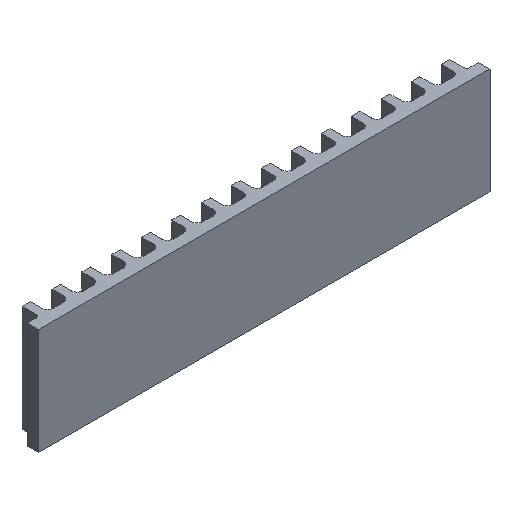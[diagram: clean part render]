
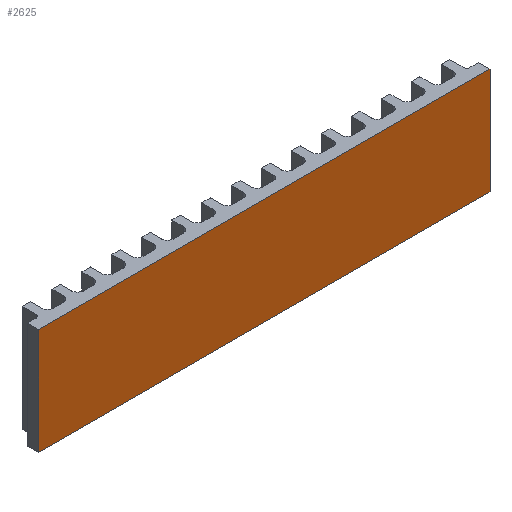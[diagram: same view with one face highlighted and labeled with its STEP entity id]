
A CAD part, isometric view. The second image highlights one B-rep face of the part: STEP entity #2625.
In plain terms, the highlighted planar face has unit normal (0, -1, 0).
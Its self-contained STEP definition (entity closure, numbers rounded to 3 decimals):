
#22 = ORIENTED_EDGE ( 'NONE', *, *, #2571, .F. ) ;
#45 = EDGE_CURVE ( 'NONE', #906, #3212, #549, .T. ) ;
#110 = ORIENTED_EDGE ( 'NONE', *, *, #126, .T. ) ;
#114 = VERTEX_POINT ( 'NONE', #1038 ) ;
#126 = EDGE_CURVE ( 'NONE', #114, #906, #1144, .T. ) ;
#549 = LINE ( 'NONE', #550, #551 ) ;
#550 = CARTESIAN_POINT ( 'NONE',  ( 0., 0., 0. ) ) ;
#551 = VECTOR ( 'NONE', #552, 1000. ) ;
#552 = DIRECTION ( 'NONE',  ( 1., 0., 0. ) ) ;
#698 = LINE ( 'NONE', #699, #700 ) ;
#699 = CARTESIAN_POINT ( 'NONE',  ( 159., 0., 37.5 ) ) ;
#700 = VECTOR ( 'NONE', #701, 1000. ) ;
#701 = DIRECTION ( 'NONE',  ( 0., 0., -1. ) ) ;
#848 = EDGE_CURVE ( 'NONE', #114, #2653, #1797, .T. ) ;
#901 = FACE_OUTER_BOUND ( 'NONE', #1705, .T. ) ;
#902 = PLANE ( 'NONE',  #903 ) ;
#903 = AXIS2_PLACEMENT_3D ( 'NONE', #904, #905, #911 ) ;
#904 = CARTESIAN_POINT ( 'NONE',  ( 0., 0., 37.5 ) ) ;
#905 = DIRECTION ( 'NONE',  ( 0., 1., 0. ) ) ;
#906 = VERTEX_POINT ( 'NONE', #1827 ) ;
#911 = DIRECTION ( 'NONE',  ( 0., 0., 1. ) ) ;
#951 = CARTESIAN_POINT ( 'NONE',  ( 159., 0., 37.5 ) ) ;
#1038 = CARTESIAN_POINT ( 'NONE',  ( 0., 0., 37.5 ) ) ;
#1144 = LINE ( 'NONE', #1145, #1146 ) ;
#1145 = CARTESIAN_POINT ( 'NONE',  ( 0., 0., 37.5 ) ) ;
#1146 = VECTOR ( 'NONE', #1147, 1000. ) ;
#1147 = DIRECTION ( 'NONE',  ( 0., 0., -1. ) ) ;
#1325 = CARTESIAN_POINT ( 'NONE',  ( 159., 0., 0. ) ) ;
#1705 = EDGE_LOOP ( 'NONE', ( #2846, #22, #2652, #110 ) ) ;
#1797 = LINE ( 'NONE', #1798, #1803 ) ;
#1798 = CARTESIAN_POINT ( 'NONE',  ( 0., 0., 37.5 ) ) ;
#1803 = VECTOR ( 'NONE', #1804, 1000. ) ;
#1804 = DIRECTION ( 'NONE',  ( 1., 0., 0. ) ) ;
#1827 = CARTESIAN_POINT ( 'NONE',  ( 0., 0., 0. ) ) ;
#2571 = EDGE_CURVE ( 'NONE', #2653, #3212, #698, .T. ) ;
#2625 = ADVANCED_FACE ( 'NONE', ( #901 ), #902, .F. ) ;
#2652 = ORIENTED_EDGE ( 'NONE', *, *, #848, .F. ) ;
#2653 = VERTEX_POINT ( 'NONE', #951 ) ;
#2846 = ORIENTED_EDGE ( 'NONE', *, *, #45, .T. ) ;
#3212 = VERTEX_POINT ( 'NONE', #1325 ) ;
